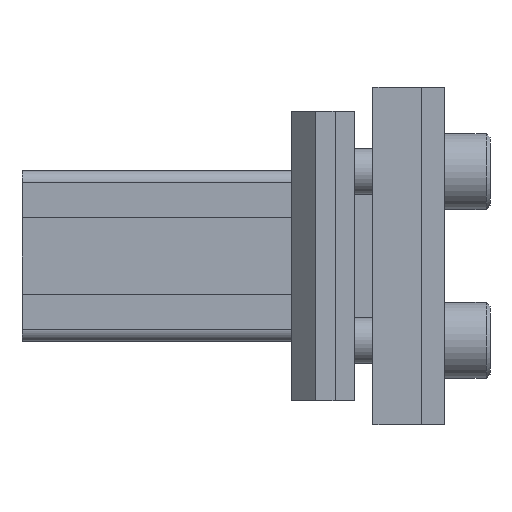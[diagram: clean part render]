
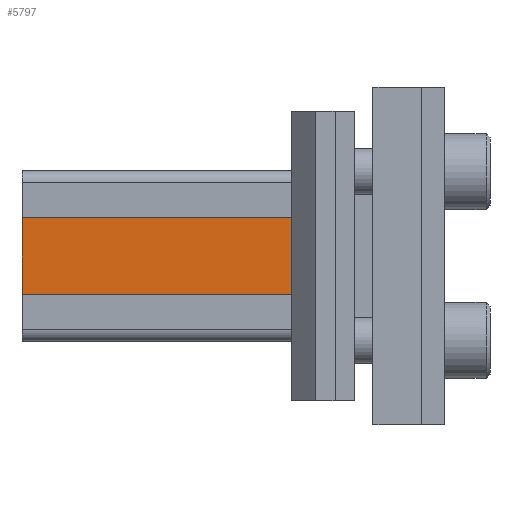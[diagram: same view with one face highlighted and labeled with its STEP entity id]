
A CAD part, front view. The second image highlights one B-rep face of the part: STEP entity #5797.
In plain terms, the highlighted planar face has unit normal (0, -1, 0) as drawn and (1, 0, 0) by its records, which use the part's own axes.
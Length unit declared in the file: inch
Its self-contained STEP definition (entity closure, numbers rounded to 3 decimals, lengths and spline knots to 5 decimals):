
#40 = DIRECTION ( 'NONE',  ( -1., 0., 0. ) ) ;
#378 = CARTESIAN_POINT ( 'NONE',  ( 0.2795, -0.2917, -0.85 ) ) ;
#438 = CARTESIAN_POINT ( 'NONE',  ( 0.2795, 0.2917, -0.85 ) ) ;
#547 = VECTOR ( 'NONE', #6757, 39.37008 ) ;
#565 = EDGE_CURVE ( 'NONE', #5611, #7306, #3812, .T. ) ;
#742 = DIRECTION ( 'NONE',  ( 0., 0., -1. ) ) ;
#2140 = ORIENTED_EDGE ( 'NONE', *, *, #7699, .T. ) ;
#3067 = DIRECTION ( 'NONE',  ( 0., -1., 0. ) ) ;
#3204 = FACE_OUTER_BOUND ( 'NONE', #7227, .T. ) ;
#3669 = LINE ( 'NONE', #4922, #547 ) ;
#3692 = DIRECTION ( 'NONE',  ( 0., 1., 0. ) ) ;
#3752 = LINE ( 'NONE', #6353, #8057 ) ;
#3812 = LINE ( 'NONE', #3854, #7119 ) ;
#3854 = CARTESIAN_POINT ( 'NONE',  ( 0.2795, 0.323, -0.85 ) ) ;
#4139 = ORIENTED_EDGE ( 'NONE', *, *, #565, .T. ) ;
#4177 = CARTESIAN_POINT ( 'NONE',  ( 0.2795, -0.2917, 0.85 ) ) ;
#4489 = LINE ( 'NONE', #5594, #8071 ) ;
#4734 = ORIENTED_EDGE ( 'NONE', *, *, #5806, .T. ) ;
#4922 = CARTESIAN_POINT ( 'NONE',  ( 0.2795, 0.2917, 75. ) ) ;
#5023 = CARTESIAN_POINT ( 'NONE',  ( 0.2795, 0.323, 75. ) ) ;
#5253 = EDGE_CURVE ( 'NONE', #6988, #5614, #3752, .T. ) ;
#5594 = CARTESIAN_POINT ( 'NONE',  ( 0.2795, -0.2917, -75. ) ) ;
#5611 = VERTEX_POINT ( 'NONE', #378 ) ;
#5614 = VERTEX_POINT ( 'NONE', #4177 ) ;
#5638 = PLANE ( 'NONE',  #7027 ) ;
#5797 = ADVANCED_FACE ( 'NONE', ( #3204 ), #5638, .F. ) ;
#5806 = EDGE_CURVE ( 'NONE', #5614, #5611, #4489, .T. ) ;
#6353 = CARTESIAN_POINT ( 'NONE',  ( 0.2795, 0.323, 0.85 ) ) ;
#6714 = ORIENTED_EDGE ( 'NONE', *, *, #5253, .T. ) ;
#6757 = DIRECTION ( 'NONE',  ( 0., 0., 1. ) ) ;
#6802 = CARTESIAN_POINT ( 'NONE',  ( 0.2795, 0.2917, 0.85 ) ) ;
#6988 = VERTEX_POINT ( 'NONE', #6802 ) ;
#7027 = AXIS2_PLACEMENT_3D ( 'NONE', #5023, #40, #7544 ) ;
#7119 = VECTOR ( 'NONE', #3692, 39.37008 ) ;
#7227 = EDGE_LOOP ( 'NONE', ( #4734, #4139, #2140, #6714 ) ) ;
#7306 = VERTEX_POINT ( 'NONE', #438 ) ;
#7544 = DIRECTION ( 'NONE',  ( 0., -1., 0. ) ) ;
#7699 = EDGE_CURVE ( 'NONE', #7306, #6988, #3669, .T. ) ;
#8057 = VECTOR ( 'NONE', #3067, 39.37008 ) ;
#8071 = VECTOR ( 'NONE', #742, 39.37008 ) ;
